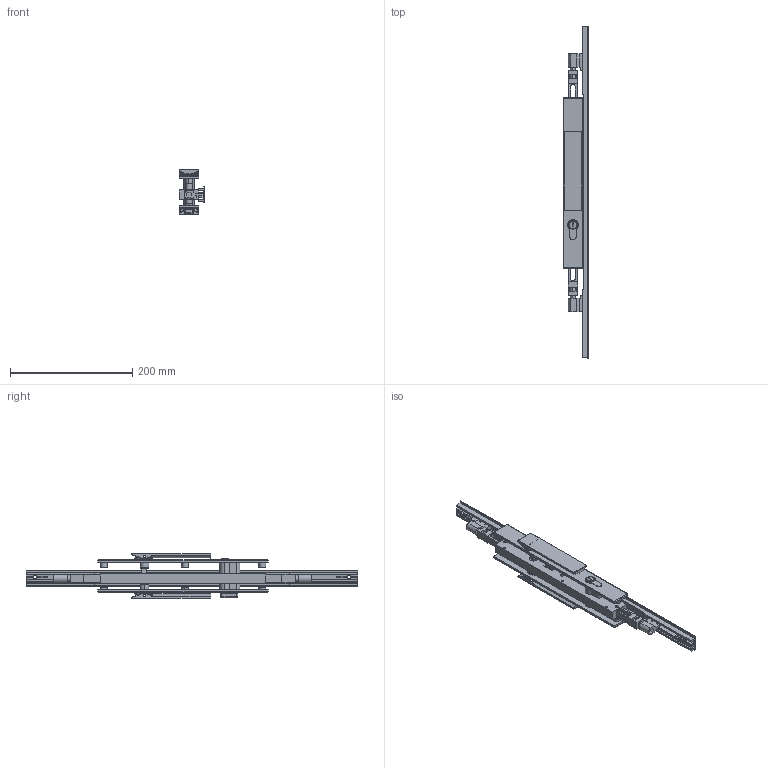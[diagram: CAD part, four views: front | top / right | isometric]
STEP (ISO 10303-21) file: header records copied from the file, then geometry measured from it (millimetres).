
FILE_DESCRIPTION (( 'STEP AP214' ), '1' );
FILE_NAME ('TPL-W-504-L 19July2024.STEP', '2024-12-04T23:58:51', ( '' ), ( '' ), 'SwSTEP 2.0', 'SolidWorks 2023', '' );
FILE_SCHEMA (( 'AUTOMOTIVE_DESIGN' ));
Length unit declared in the file: millimetre
Products named in the file (21): Copy of COV-112-A Cover A suit TPLGen2 standard range^TPL-W-004 19July2024_1335mm; Copy of COV-112-C Cover C TPLGen2 Lock body^TPL-W-004 19July2024; Copy of LKC-547 Spindle - simplified^Copy of TPGen2 handle keyed external - simplified_TPL-W-004 19July2024_E - 19mm; Copy of Copy of LKC-531 Lock twinpoint transmission rod wood system^TPL-W-004 19July2024_Standard Range 2891.7mm; Copy of Handle sub-assembly - simplified^Copy of TPGen2 handle keyed external - simplified_TPL-W-004 19July2024; Copy of Escutcheon plate keyed internal 280mm - simplified^Copy of TPGen2 handle keyed internal - simplified_TPL-W-004 19July2024; Copy of Escutcheon plate keyed external 280mm - simplified^Copy of TPGen2 handle keyed external - simplified_TPL-W-004 19July2024; Copy of Adapter CnE - simplfied^TPL-W-004 19July2024_26mm backset; Copy of TPLGen2 lock body keyed assembly^TPL-W-004 19July2024_Bolts extended; Copy of COV-112-B Cover B suit TPLGen2 standard range^TPL-W-004 19July2024_2870mm; Copy of TPLGen2 push rod - simplified^Copy of TPLGen2 lock body keyed assembly_TPL-W-004 19July2024_Female thread M10; Bolt.step; TPL-W-504-L 19July2024; Copy of LKC-531 Lock twinpoint transmission rod wood system^TPL-W-004 19July2024_Standard Range (588.7mm); Copy of LKC-547 Spindle - simplified^Copy of TPGen2 handle keyed internal - simplified_TPL-W-004 19July2024_A - 11mm; Copy of TPGen2 handle keyed external - simplified^TPL-W-004 19July2024_Vertical; Copy of TPGen2 handle keyed internal - simplified^TPL-W-004 19July2024_Vertical; Copy of Adapter DnF - simplfied^TPL-W-004 19July2024_26mm backset; Copy of Handle sub-assembly - simplified^Copy of TPGen2 handle keyed internal - simplified_TPL-W-004 19July2024; Copy of TPLGen2 lock body keyed^Copy of TPLGen2 lock body keyed assembly_TPL-W-004 19July2024; Copy of TPL-019 Lock cylinder suit 1.75 inch panel^TPL-W-004 19July2024
Assembly tree (18 placements, depth 3):
  Copy of COV-112-A Cover A suit TPLGen2 standard range^TPL-W-004 19July2024_1335mm
  Copy of COV-112-B Cover B suit TPLGen2 standard range^TPL-W-004 19July2024_2870mm
  Bolt.step
  TPL-W-504-L 19July2024
    Copy of TPLGen2 lock body keyed assembly^TPL-W-004 19July2024_Bolts extended
      Copy of TPLGen2 lock body keyed^Copy of TPLGen2 lock body keyed assembly_TPL-W-004 19July2024
      Copy of TPLGen2 push rod - simplified^Copy of TPLGen2 lock body keyed assembly_TPL-W-004 19July2024_Female thread M10  x2
    Copy of TPGen2 handle keyed internal - simplified^TPL-W-004 19July2024_Vertical
      Copy of Escutcheon plate keyed internal 280mm - simplified^Copy of TPGen2 handle keyed internal - simplified_TPL-W-004 19July2024
      Copy of Handle sub-assembly - simplified^Copy of TPGen2 handle keyed internal - simplified_TPL-W-004 19July2024
      Copy of LKC-547 Spindle - simplified^Copy of TPGen2 handle keyed internal - simplified_TPL-W-004 19July2024_A - 11mm
    Copy of TPGen2 handle keyed external - simplified^TPL-W-004 19July2024_Vertical
      Copy of Escutcheon plate keyed external 280mm - simplified^Copy of TPGen2 handle keyed external - simplified_TPL-W-004 19July2024
      Copy of Handle sub-assembly - simplified^Copy of TPGen2 handle keyed external - simplified_TPL-W-004 19July2024
      Copy of LKC-547 Spindle - simplified^Copy of TPGen2 handle keyed external - simplified_TPL-W-004 19July2024_E - 19mm
    Copy of TPL-019 Lock cylinder suit 1.75 inch panel^TPL-W-004 19July2024
    Copy of COV-112-C Cover C TPLGen2 Lock body^TPL-W-004 19July2024
    Copy of Copy of LKC-531 Lock twinpoint transmission rod wood system^TPL-W-004 19July2024_Standard Range 2891.7mm
    Copy of LKC-531 Lock twinpoint transmission rod wood system^TPL-W-004 19July2024_Standard Range (588.7mm)
    Copy of Adapter CnE - simplfied^TPL-W-004 19July2024_26mm backset
    Copy of Adapter DnF - simplfied^TPL-W-004 19July2024_26mm backset
Bounding box: 42 x 544 x 73.59 mm (x, y, z)
Volume: 355406.9 mm3; surface area: 175811.2 mm2
Topology: 17 solids, 20 shells, 1091 faces, 2768 edges, 1729 vertices
Faces by surface type: cylinder 453, plane 422, bspline 89, torus 68, cone 35, sphere 24
Entity records: 33431 total; most frequent: CARTESIAN_POINT 7281, DIRECTION 5484, ORIENTED_EDGE 5284, EDGE_CURVE 2642, AXIS2_PLACEMENT_3D 2056, VERTEX_POINT 1669, LINE 1372, VECTOR 1372
